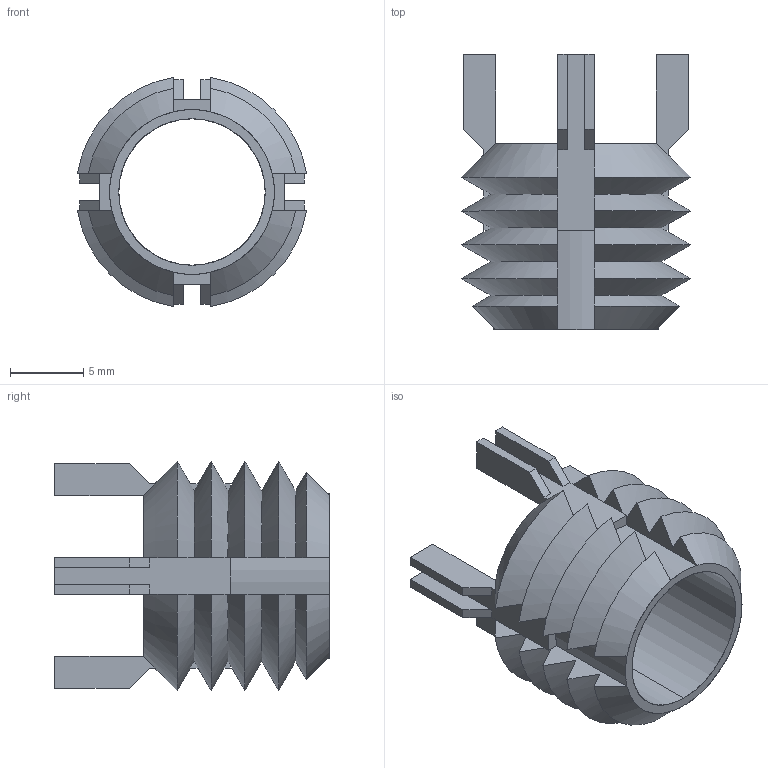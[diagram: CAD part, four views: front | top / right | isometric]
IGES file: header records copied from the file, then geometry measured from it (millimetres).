
Start section: SolidWorks IGES file using analytic representation for surfaces
Global section: file name: C:\Users\IanO\Desktop\TR1530_v2\TR1530_v2_20230501_IGES\TR1530.66645.igs; native system: SolidWorks 2019; preprocessor: SolidWorks 2019; author: IanO; date: 230502.140355; units: millimetre
Bounding box: 15.68 x 18.77 x 15.68 mm (x, y, z)
Surface area: 1739.7 mm2 (no closed solid volume)
Topology: 0 solids, 0 shells, 136 faces, 816 edges, 816 vertices
Faces by surface type: bspline 90, revolution 46
